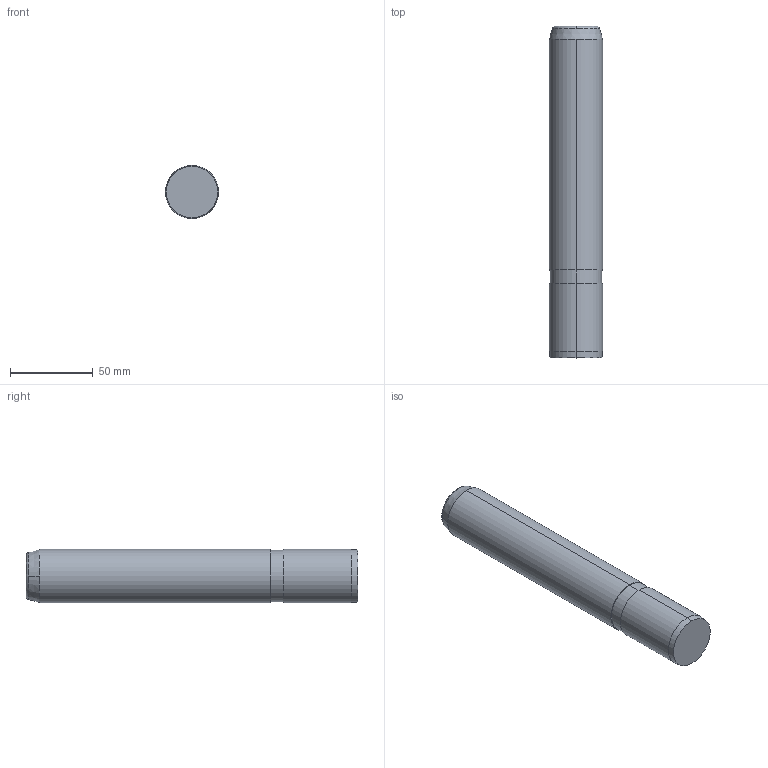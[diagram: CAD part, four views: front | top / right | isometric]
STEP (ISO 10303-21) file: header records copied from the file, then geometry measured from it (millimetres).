
FILE_DESCRIPTION (( 'STEP AP214' ), '1' );
FILE_NAME ('D13.02_32200.step', '2011-12-25T17:30:53', ( 'Dell' ), ( '' ), 'SwSTEP 2.0', 'SolidWorks 2010', '' );
FILE_SCHEMA (( 'AUTOMOTIVE_DESIGN' ));
Length unit declared in the file: millimetre
Products named in the file (1): D13.02_32200
Bounding box: 32 x 200 x 32 mm (x, y, z)
Volume: 159521.8 mm3; surface area: 21482 mm2
Topology: 1 solids, 1 shells, 16 faces, 36 edges, 24 vertices
Faces by surface type: cylinder 6, cone 4, plane 4, bspline 2
Entity records: 518 total; most frequent: CARTESIAN_POINT 119, DIRECTION 84, ORIENTED_EDGE 72, AXIS2_PLACEMENT_3D 37, EDGE_CURVE 36, VERTEX_POINT 24, CIRCLE 22, EDGE_LOOP 18
